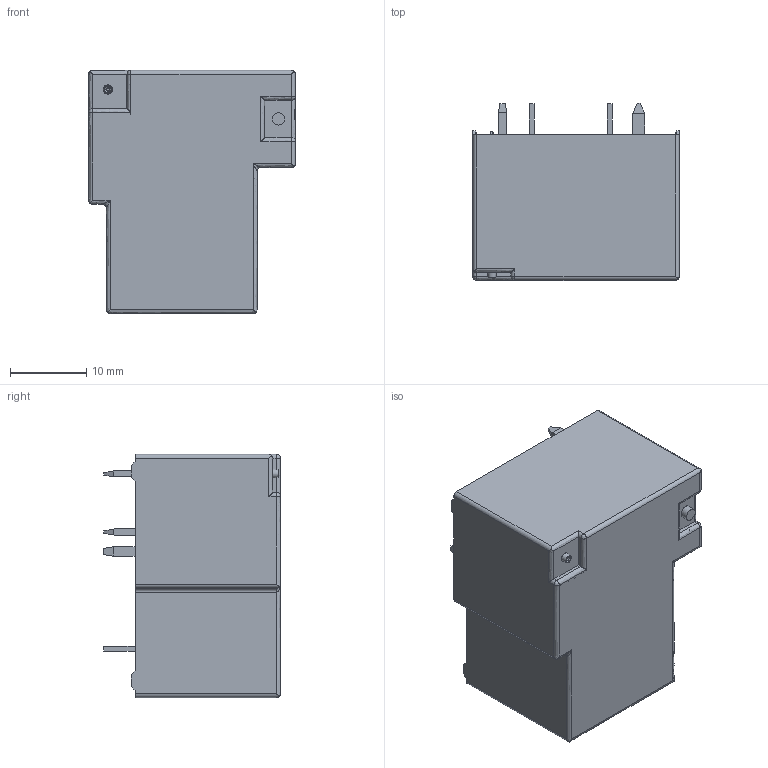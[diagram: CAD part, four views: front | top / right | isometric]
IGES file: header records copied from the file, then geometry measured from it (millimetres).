
Global section: file name: Filename.iges; native system: Open CASCADE 7.3; preprocessor: Open CASCADE IGES processor 7.3; date: 20200625.092254; units: millimetre
Bounding box: 27 x 23.1 x 31.8 mm (x, y, z)
Surface area: 7478.4 mm2 (no closed solid volume)
Topology: 0 solids, 0 shells, 499 faces, 7384 edges, 27009 vertices
Faces by surface type: plane 294, revolution 194, bspline 11
